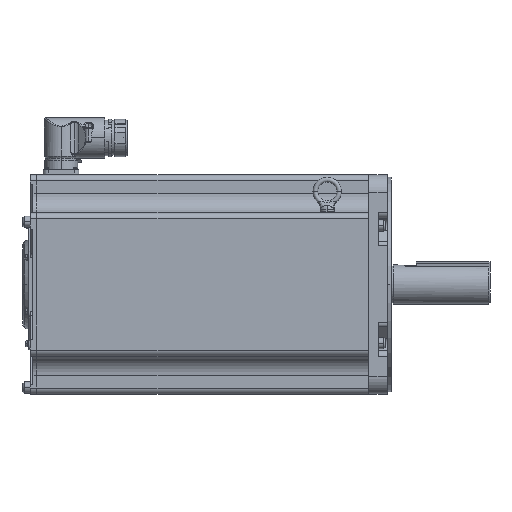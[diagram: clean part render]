
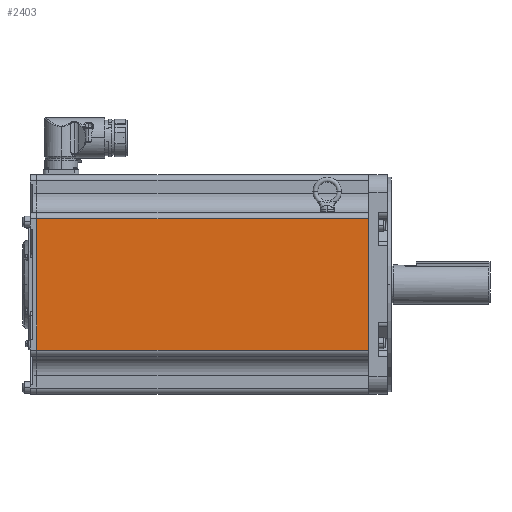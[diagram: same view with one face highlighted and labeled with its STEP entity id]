
A CAD part, top view. The second image highlights one B-rep face of the part: STEP entity #2403.
In plain terms, the highlighted planar face has unit normal (0, 0, 1) as drawn and (0, 0, -1) by its records, which use the part's own axes.
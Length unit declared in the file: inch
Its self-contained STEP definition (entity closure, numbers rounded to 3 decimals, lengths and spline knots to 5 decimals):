
#1936 = EDGE_CURVE ( 'NONE', #32945, #18122, #35773, .T. ) ;
#2361 = LINE ( 'NONE', #35899, #23943 ) ;
#2403 = ADVANCED_FACE ( 'NONE', ( #34896 ), #31156, .F. ) ;
#5892 = VECTOR ( 'NONE', #34046, 39.37008 ) ;
#6163 = CARTESIAN_POINT ( 'NONE',  ( -0.8, -2.775, -4.625 ) ) ;
#8747 = EDGE_CURVE ( 'NONE', #32945, #16757, #2361, .T. ) ;
#10471 = DIRECTION ( 'NONE',  ( 0., -1., 0. ) ) ;
#11433 = DIRECTION ( 'NONE',  ( -1., 0., 0. ) ) ;
#11634 = VECTOR ( 'NONE', #19499, 39.37008 ) ;
#12527 = LINE ( 'NONE', #16687, #11634 ) ;
#14297 = DIRECTION ( 'NONE',  ( 0., 0., 1. ) ) ;
#14304 = ORIENTED_EDGE ( 'NONE', *, *, #27211, .T. ) ;
#15318 = AXIS2_PLACEMENT_3D ( 'NONE', #25154, #14297, #34005 ) ;
#15990 = CARTESIAN_POINT ( 'NONE',  ( -14.82, -2.775, -4.625 ) ) ;
#16687 = CARTESIAN_POINT ( 'NONE',  ( -0.8, 3.025, -4.625 ) ) ;
#16757 = VERTEX_POINT ( 'NONE', #15990 ) ;
#17203 = CARTESIAN_POINT ( 'NONE',  ( -14.82, 2.775, -4.625 ) ) ;
#17585 = EDGE_LOOP ( 'NONE', ( #14304, #35709, #19682, #34623 ) ) ;
#18122 = VERTEX_POINT ( 'NONE', #30543 ) ;
#19282 = EDGE_CURVE ( 'NONE', #26138, #16757, #25323, .T. ) ;
#19499 = DIRECTION ( 'NONE',  ( 0., -1., 0. ) ) ;
#19682 = ORIENTED_EDGE ( 'NONE', *, *, #8747, .F. ) ;
#23943 = VECTOR ( 'NONE', #10471, 39.37008 ) ;
#25154 = CARTESIAN_POINT ( 'NONE',  ( -14.82, 3.025, -4.625 ) ) ;
#25323 = LINE ( 'NONE', #31088, #27078 ) ;
#26138 = VERTEX_POINT ( 'NONE', #6163 ) ;
#27078 = VECTOR ( 'NONE', #11433, 39.37008 ) ;
#27211 = EDGE_CURVE ( 'NONE', #18122, #26138, #12527, .T. ) ;
#30543 = CARTESIAN_POINT ( 'NONE',  ( -0.8, 2.775, -4.625 ) ) ;
#31088 = CARTESIAN_POINT ( 'NONE',  ( -14.82, -2.775, -4.625 ) ) ;
#31156 = PLANE ( 'NONE',  #15318 ) ;
#31194 = CARTESIAN_POINT ( 'NONE',  ( -14.82, 2.775, -4.625 ) ) ;
#32945 = VERTEX_POINT ( 'NONE', #17203 ) ;
#34005 = DIRECTION ( 'NONE',  ( 1., 0., 0. ) ) ;
#34046 = DIRECTION ( 'NONE',  ( 1., 0., 0. ) ) ;
#34623 = ORIENTED_EDGE ( 'NONE', *, *, #1936, .T. ) ;
#34896 = FACE_OUTER_BOUND ( 'NONE', #17585, .T. ) ;
#35709 = ORIENTED_EDGE ( 'NONE', *, *, #19282, .T. ) ;
#35773 = LINE ( 'NONE', #31194, #5892 ) ;
#35899 = CARTESIAN_POINT ( 'NONE',  ( -14.82, 3.025, -4.625 ) ) ;
